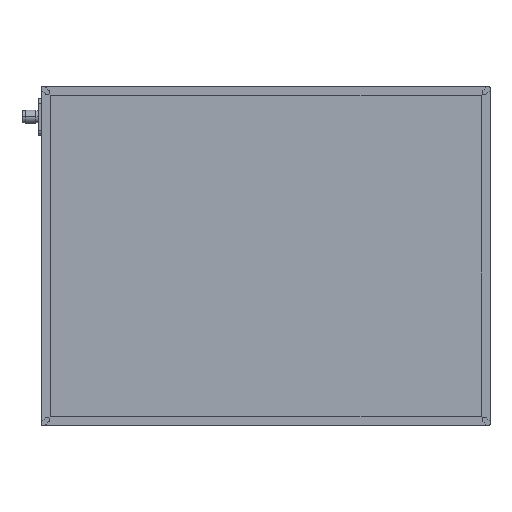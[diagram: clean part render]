
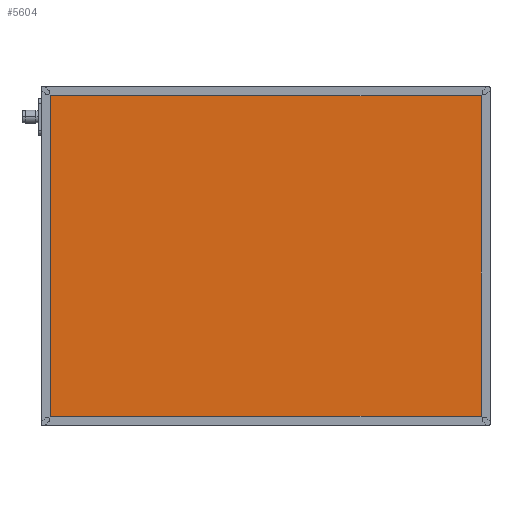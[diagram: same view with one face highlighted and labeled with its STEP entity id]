
A CAD part, top view. The second image highlights one B-rep face of the part: STEP entity #5604.
In plain terms, the highlighted planar face has unit normal (0, 0, 1).
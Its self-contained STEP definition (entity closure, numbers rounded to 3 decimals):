
#1118 = VERTEX_POINT ( 'NONE', #9393 ) ;
#1934 = EDGE_CURVE ( 'NONE', #12406, #1118, #8649, .T. ) ;
#2188 = CARTESIAN_POINT ( 'NONE',  ( 0., 296., 41.85 ) ) ;
#2502 = FACE_OUTER_BOUND ( 'NONE', #3652, .T. ) ;
#2832 = CARTESIAN_POINT ( 'NONE',  ( 396., 4., 41.85 ) ) ;
#3092 = AXIS2_PLACEMENT_3D ( 'NONE', #6509, #4161, #4068 ) ;
#3652 = EDGE_LOOP ( 'NONE', ( #11333, #6513, #5499, #10126 ) ) ;
#4068 = DIRECTION ( 'NONE',  ( -1., 0., 0. ) ) ;
#4161 = DIRECTION ( 'NONE',  ( 0., 0., -1. ) ) ;
#4650 = VECTOR ( 'NONE', #16604, 1000. ) ;
#5499 = ORIENTED_EDGE ( 'NONE', *, *, #16201, .T. ) ;
#5604 = ADVANCED_FACE ( 'NONE', ( #2502 ), #7814, .F. ) ;
#5710 = VERTEX_POINT ( 'NONE', #10855 ) ;
#6509 = CARTESIAN_POINT ( 'NONE',  ( 0., 0., 41.85 ) ) ;
#6513 = ORIENTED_EDGE ( 'NONE', *, *, #13726, .T. ) ;
#7209 = VECTOR ( 'NONE', #7835, 1000. ) ;
#7814 = PLANE ( 'NONE',  #3092 ) ;
#7835 = DIRECTION ( 'NONE',  ( 0., -1., 0. ) ) ;
#8338 = VECTOR ( 'NONE', #12654, 1000. ) ;
#8507 = LINE ( 'NONE', #8591, #4650 ) ;
#8591 = CARTESIAN_POINT ( 'NONE',  ( 0., 4., 41.85 ) ) ;
#8649 = LINE ( 'NONE', #10999, #8338 ) ;
#9393 = CARTESIAN_POINT ( 'NONE',  ( 396., 296., 41.85 ) ) ;
#9590 = CARTESIAN_POINT ( 'NONE',  ( 4., 296., 41.85 ) ) ;
#10126 = ORIENTED_EDGE ( 'NONE', *, *, #11062, .T. ) ;
#10855 = CARTESIAN_POINT ( 'NONE',  ( 4., 4., 41.85 ) ) ;
#10999 = CARTESIAN_POINT ( 'NONE',  ( 396., 0., 41.85 ) ) ;
#11062 = EDGE_CURVE ( 'NONE', #5710, #12406, #8507, .T. ) ;
#11333 = ORIENTED_EDGE ( 'NONE', *, *, #1934, .T. ) ;
#11681 = LINE ( 'NONE', #2188, #14099 ) ;
#11755 = LINE ( 'NONE', #15756, #7209 ) ;
#11766 = DIRECTION ( 'NONE',  ( -1., 0., 0. ) ) ;
#12406 = VERTEX_POINT ( 'NONE', #2832 ) ;
#12654 = DIRECTION ( 'NONE',  ( 0., 1., 0. ) ) ;
#13726 = EDGE_CURVE ( 'NONE', #1118, #15005, #11681, .T. ) ;
#14099 = VECTOR ( 'NONE', #11766, 1000. ) ;
#15005 = VERTEX_POINT ( 'NONE', #9590 ) ;
#15756 = CARTESIAN_POINT ( 'NONE',  ( 4., 0., 41.85 ) ) ;
#16201 = EDGE_CURVE ( 'NONE', #15005, #5710, #11755, .T. ) ;
#16604 = DIRECTION ( 'NONE',  ( 1., 0., 0. ) ) ;
